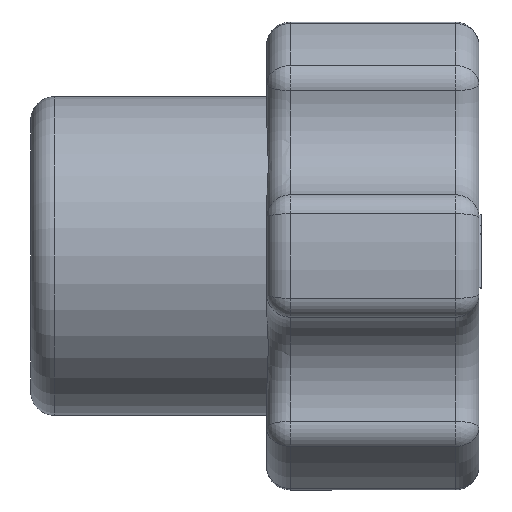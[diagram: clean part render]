
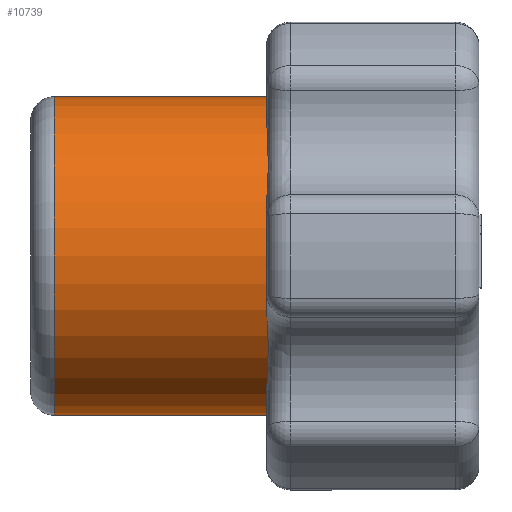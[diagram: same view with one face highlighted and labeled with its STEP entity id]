
A CAD part, left-side view. The second image highlights one B-rep face of the part: STEP entity #10739.
In plain terms, the highlighted cylindrical face has radius 6.75 mm (diameter 13.5 mm), a partial arc.
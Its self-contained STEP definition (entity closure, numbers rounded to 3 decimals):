
#8 = VERTEX_POINT ( 'NONE', #3765 ) ;
#329 = VECTOR ( 'NONE', #666, 1000. ) ;
#607 = LINE ( 'NONE', #10512, #329 ) ;
#666 = DIRECTION ( 'NONE',  ( 0., -1., 0. ) ) ;
#758 = EDGE_CURVE ( 'NONE', #8061, #7204, #11303, .T. ) ;
#1124 = EDGE_LOOP ( 'NONE', ( #7047, #10580, #8527, #6513 ) ) ;
#1273 = CARTESIAN_POINT ( 'NONE',  ( 0., 19., 0. ) ) ;
#1465 = CARTESIAN_POINT ( 'NONE',  ( 0., 18., 0. ) ) ;
#1733 = CYLINDRICAL_SURFACE ( 'NONE', #9825, 6.75 ) ;
#1791 = CARTESIAN_POINT ( 'NONE',  ( 0., 8.2, -6.75 ) ) ;
#2280 = DIRECTION ( 'NONE',  ( 0., -1., 0. ) ) ;
#2359 = DIRECTION ( 'NONE',  ( 0., 0., 1. ) ) ;
#2503 = CARTESIAN_POINT ( 'NONE',  ( 0., 8.2, 0. ) ) ;
#3316 = VECTOR ( 'NONE', #2280, 1000. ) ;
#3412 = DIRECTION ( 'NONE',  ( 0., 0., 1. ) ) ;
#3765 = CARTESIAN_POINT ( 'NONE',  ( 0., 8.2, 6.75 ) ) ;
#4037 = CARTESIAN_POINT ( 'NONE',  ( 0., 18., 6.75 ) ) ;
#4115 = FACE_OUTER_BOUND ( 'NONE', #1124, .T. ) ;
#4414 = VERTEX_POINT ( 'NONE', #1791 ) ;
#4847 = CIRCLE ( 'NONE', #9073, 6.75 ) ;
#5431 = CARTESIAN_POINT ( 'NONE',  ( 0., 18., -6.75 ) ) ;
#5705 = LINE ( 'NONE', #7673, #3316 ) ;
#6513 = ORIENTED_EDGE ( 'NONE', *, *, #8453, .T. ) ;
#7047 = ORIENTED_EDGE ( 'NONE', *, *, #9815, .F. ) ;
#7204 = VERTEX_POINT ( 'NONE', #5431 ) ;
#7673 = CARTESIAN_POINT ( 'NONE',  ( 0., 19., 6.75 ) ) ;
#7748 = DIRECTION ( 'NONE',  ( 0., -1., 0. ) ) ;
#8061 = VERTEX_POINT ( 'NONE', #4037 ) ;
#8453 = EDGE_CURVE ( 'NONE', #4414, #8, #4847, .T. ) ;
#8527 = ORIENTED_EDGE ( 'NONE', *, *, #11428, .T. ) ;
#8808 = DIRECTION ( 'NONE',  ( 0., 1., 0. ) ) ;
#9073 = AXIS2_PLACEMENT_3D ( 'NONE', #2503, #8808, #3412 ) ;
#9815 = EDGE_CURVE ( 'NONE', #8061, #8, #5705, .T. ) ;
#9825 = AXIS2_PLACEMENT_3D ( 'NONE', #1273, #11140, #10161 ) ;
#10099 = AXIS2_PLACEMENT_3D ( 'NONE', #1465, #7748, #2359 ) ;
#10161 = DIRECTION ( 'NONE',  ( 0., 0., -1. ) ) ;
#10512 = CARTESIAN_POINT ( 'NONE',  ( 0., 19., -6.75 ) ) ;
#10580 = ORIENTED_EDGE ( 'NONE', *, *, #758, .T. ) ;
#10739 = ADVANCED_FACE ( 'NONE', ( #4115 ), #1733, .T. ) ;
#11140 = DIRECTION ( 'NONE',  ( 0., -1., 0. ) ) ;
#11303 = CIRCLE ( 'NONE', #10099, 6.75 ) ;
#11428 = EDGE_CURVE ( 'NONE', #7204, #4414, #607, .T. ) ;
